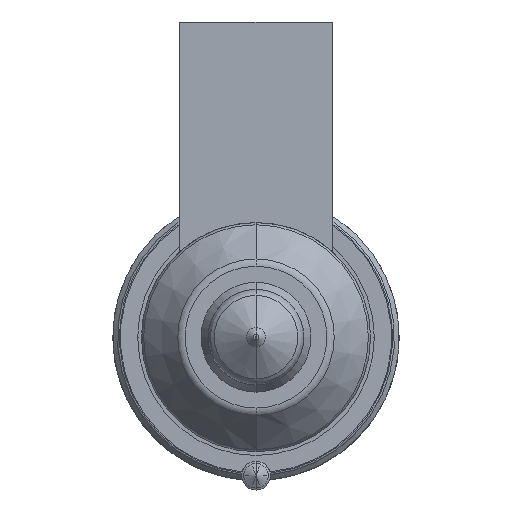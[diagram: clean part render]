
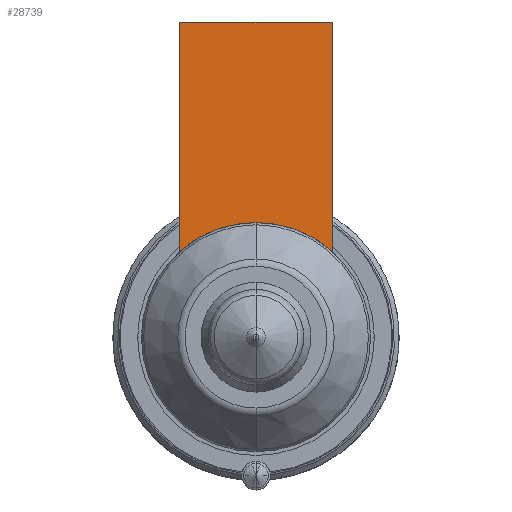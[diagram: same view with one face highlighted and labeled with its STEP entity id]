
A CAD part, front view. The second image highlights one B-rep face of the part: STEP entity #28739.
In plain terms, the highlighted planar face has unit normal (0, -1, 0).
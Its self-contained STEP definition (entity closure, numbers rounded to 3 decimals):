
#27885=DIRECTION('',(0.,0.,-1.));
#27886=VECTOR('',#27885,24.056);
#27887=CARTESIAN_POINT('',(-8.,-56.,33.));
#27888=LINE('',#27887,#27886);
#27925=DIRECTION('',(1.,0.,0.));
#27926=VECTOR('',#27925,16.);
#27927=CARTESIAN_POINT('',(-8.,-56.,33.));
#27928=LINE('',#27927,#27926);
#27932=CARTESIAN_POINT('',(0.,-56.,0.));
#27933=DIRECTION('',(0.,-1.,0.));
#27934=DIRECTION('',(0.667,0.,0.745));
#27935=AXIS2_PLACEMENT_3D('',#27932,#27933,#27934);
#27940=CARTESIAN_POINT('',(0.,-56.,0.));
#27941=DIRECTION('',(0.,-1.,0.));
#27942=DIRECTION('',(0.,0.,1.));
#27943=AXIS2_PLACEMENT_3D('',#27940,#27941,#27942);
#27976=DIRECTION('',(0.,0.,-1.));
#27977=VECTOR('',#27976,24.056);
#27978=CARTESIAN_POINT('',(8.,-56.,33.));
#27979=LINE('',#27978,#27977);
#28583=CARTESIAN_POINT('',(-8.,-56.,33.));
#28584=VERTEX_POINT('',#28583);
#28589=CARTESIAN_POINT('',(8.,-56.,33.));
#28590=VERTEX_POINT('',#28589);
#28593=CARTESIAN_POINT('',(-8.,-56.,8.944));
#28594=VERTEX_POINT('',#28593);
#28597=CARTESIAN_POINT('',(8.,-56.,8.944));
#28598=VERTEX_POINT('',#28597);
#28658=CARTESIAN_POINT('',(0.,-56.,12.));
#28659=VERTEX_POINT('',#28658);
#28724=CARTESIAN_POINT('',(-8.,-56.,33.));
#28725=DIRECTION('',(0.,-1.,0.));
#28726=DIRECTION('',(0.,0.,-1.));
#28727=AXIS2_PLACEMENT_3D('',#28724,#28725,#28726);
#28728=PLANE('',#28727);
#28729=ORIENTED_EDGE('',*,*,#28672,.F.);
#28731=ORIENTED_EDGE('',*,*,#28730,.T.);
#28733=ORIENTED_EDGE('',*,*,#28732,.T.);
#28735=ORIENTED_EDGE('',*,*,#28734,.T.);
#28736=ORIENTED_EDGE('',*,*,#28704,.T.);
#28737=EDGE_LOOP('',(#28729,#28731,#28733,#28735,#28736));
#28738=FACE_OUTER_BOUND('',#28737,.F.);
#28739=ADVANCED_FACE('',(#28738),#28728,.T.);
#27936=CIRCLE('',#27935,12.);
#27944=CIRCLE('',#27943,12.);
#28672=EDGE_CURVE('',#28584,#28594,#27888,.T.);
#28704=EDGE_CURVE('',#28659,#28594,#27944,.T.);
#28730=EDGE_CURVE('',#28584,#28590,#27928,.T.);
#28732=EDGE_CURVE('',#28590,#28598,#27979,.T.);
#28734=EDGE_CURVE('',#28598,#28659,#27936,.T.);
